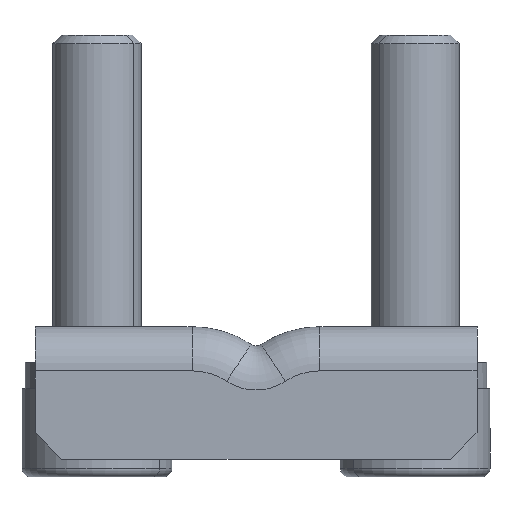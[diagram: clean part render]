
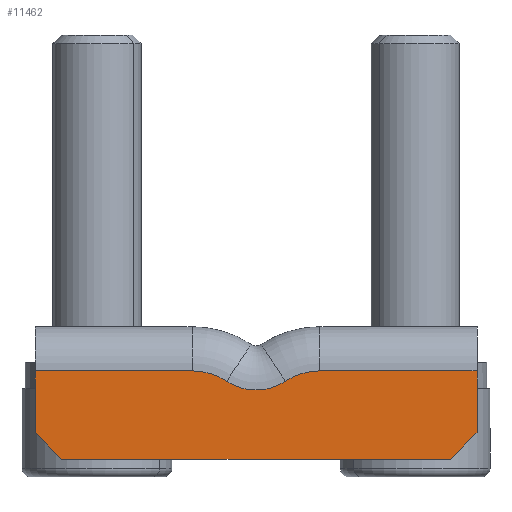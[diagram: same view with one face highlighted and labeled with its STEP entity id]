
A CAD part, front view. The second image highlights one B-rep face of the part: STEP entity #11462.
In plain terms, the highlighted planar face has unit normal (0, -1, 0).
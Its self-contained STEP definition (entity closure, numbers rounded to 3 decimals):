
#196 = CARTESIAN_POINT ( 'NONE',  ( -3.5, -7.25, -2.5 ) ) ;
#256 = AXIS2_PLACEMENT_3D ( 'NONE', #12272, #5887, #4882 ) ;
#277 = VERTEX_POINT ( 'NONE', #4574 ) ;
#456 = EDGE_CURVE ( 'NONE', #515, #13500, #3673, .T. ) ;
#515 = VERTEX_POINT ( 'NONE', #3693 ) ;
#591 = CARTESIAN_POINT ( 'NONE',  ( 5.4, -7.25, -2.5 ) ) ;
#1161 = CARTESIAN_POINT ( 'NONE',  ( 7.338, -7.25, -3.086 ) ) ;
#1192 = DIRECTION ( 'NONE',  ( 0., 0., 1. ) ) ;
#1230 = CARTESIAN_POINT ( 'NONE',  ( 5.4, -7.25, -2.5 ) ) ;
#1631 = CARTESIAN_POINT ( 'NONE',  ( -3.5, -7.25, -7.5 ) ) ;
#1722 = LINE ( 'NONE', #7492, #1886 ) ;
#1803 = EDGE_CURVE ( 'NONE', #7904, #277, #7412, .T. ) ;
#1886 = VECTOR ( 'NONE', #1192, 1000. ) ;
#1954 = VECTOR ( 'NONE', #12166, 1000. ) ;
#2512 = CARTESIAN_POINT ( 'NONE',  ( 15., -7.25, -12.5 ) ) ;
#2625 = ORIENTED_EDGE ( 'NONE', *, *, #4725, .F. ) ;
#2693 = CARTESIAN_POINT ( 'NONE',  ( -3.5, -7.25, -6. ) ) ;
#2869 = AXIS2_PLACEMENT_3D ( 'NONE', #13606, #7295, #3020 ) ;
#2949 = DIRECTION ( 'NONE',  ( 0., 1., 0. ) ) ;
#2978 = LINE ( 'NONE', #591, #5954 ) ;
#3020 = DIRECTION ( 'NONE',  ( -1., 0., 0. ) ) ;
#3093 = VERTEX_POINT ( 'NONE', #1161 ) ;
#3203 = LINE ( 'NONE', #13008, #3367 ) ;
#3252 = VERTEX_POINT ( 'NONE', #11876 ) ;
#3342 = AXIS2_PLACEMENT_3D ( 'NONE', #7150, #6053, #7199 ) ;
#3367 = VECTOR ( 'NONE', #11618, 1000. ) ;
#3398 = CIRCLE ( 'NONE', #2869, 3.5 ) ;
#3673 = LINE ( 'NONE', #1631, #13530 ) ;
#3693 = CARTESIAN_POINT ( 'NONE',  ( 20., -7.25, -7.5 ) ) ;
#3727 = DIRECTION ( 'NONE',  ( -1., 0., 0. ) ) ;
#4058 = CARTESIAN_POINT ( 'NONE',  ( 10.662, -7.25, -3.086 ) ) ;
#4574 = CARTESIAN_POINT ( 'NONE',  ( 21.5, -7.25, -2.5 ) ) ;
#4716 = CIRCLE ( 'NONE', #256, 3. ) ;
#4725 = EDGE_CURVE ( 'NONE', #3252, #277, #12798, .T. ) ;
#4791 = CARTESIAN_POINT ( 'NONE',  ( -2., -7.25, -7.5 ) ) ;
#4834 = DIRECTION ( 'NONE',  ( 0., 0., 1. ) ) ;
#4882 = DIRECTION ( 'NONE',  ( 1., 0., 0. ) ) ;
#5503 = VECTOR ( 'NONE', #11973, 1000. ) ;
#5611 = ORIENTED_EDGE ( 'NONE', *, *, #10151, .F. ) ;
#5887 = DIRECTION ( 'NONE',  ( 0., -1., 0. ) ) ;
#5954 = VECTOR ( 'NONE', #3727, 1000. ) ;
#6053 = DIRECTION ( 'NONE',  ( 0., -1., 0. ) ) ;
#6652 = FACE_OUTER_BOUND ( 'NONE', #12488, .T. ) ;
#7144 = EDGE_CURVE ( 'NONE', #10906, #12297, #2978, .T. ) ;
#7150 = CARTESIAN_POINT ( 'NONE',  ( 4.5, -7.25, -2. ) ) ;
#7199 = DIRECTION ( 'NONE',  ( 1., 0., 0. ) ) ;
#7276 = DIRECTION ( 'NONE',  ( -1., 0., 0. ) ) ;
#7295 = DIRECTION ( 'NONE',  ( 0., 1., 0. ) ) ;
#7412 = LINE ( 'NONE', #9010, #8408 ) ;
#7492 = CARTESIAN_POINT ( 'NONE',  ( -3.5, -7.25, -2. ) ) ;
#7904 = VERTEX_POINT ( 'NONE', #12780 ) ;
#8299 = LINE ( 'NONE', #2512, #5503 ) ;
#8369 = EDGE_CURVE ( 'NONE', #10906, #3093, #3398, .T. ) ;
#8408 = VECTOR ( 'NONE', #4834, 1000. ) ;
#8525 = ORIENTED_EDGE ( 'NONE', *, *, #8369, .F. ) ;
#9004 = CARTESIAN_POINT ( 'NONE',  ( 12.6, -7.25, -2.5 ) ) ;
#9010 = CARTESIAN_POINT ( 'NONE',  ( 21.5, -7.25, -2. ) ) ;
#9213 = VERTEX_POINT ( 'NONE', #2693 ) ;
#9449 = CARTESIAN_POINT ( 'NONE',  ( 12.6, -7.25, -6. ) ) ;
#9461 = CIRCLE ( 'NONE', #10573, 3.5 ) ;
#9665 = ORIENTED_EDGE ( 'NONE', *, *, #1803, .T. ) ;
#9763 = ORIENTED_EDGE ( 'NONE', *, *, #13067, .F. ) ;
#9770 = ORIENTED_EDGE ( 'NONE', *, *, #10867, .F. ) ;
#10061 = DIRECTION ( 'NONE',  ( -1., 0., 0. ) ) ;
#10151 = EDGE_CURVE ( 'NONE', #10236, #3252, #9461, .T. ) ;
#10236 = VERTEX_POINT ( 'NONE', #4058 ) ;
#10521 = EDGE_CURVE ( 'NONE', #515, #7904, #8299, .T. ) ;
#10573 = AXIS2_PLACEMENT_3D ( 'NONE', #9449, #2949, #7276 ) ;
#10867 = EDGE_CURVE ( 'NONE', #9213, #12297, #1722, .T. ) ;
#10906 = VERTEX_POINT ( 'NONE', #1230 ) ;
#11462 = ADVANCED_FACE ( 'NONE', ( #6652 ), #13412, .T. ) ;
#11618 = DIRECTION ( 'NONE',  ( 0.707, 0., -0.707 ) ) ;
#11854 = ORIENTED_EDGE ( 'NONE', *, *, #7144, .T. ) ;
#11876 = CARTESIAN_POINT ( 'NONE',  ( 12.6, -7.25, -2.5 ) ) ;
#11973 = DIRECTION ( 'NONE',  ( 0.707, 0., 0.707 ) ) ;
#12166 = DIRECTION ( 'NONE',  ( 1., 0., 0. ) ) ;
#12186 = ORIENTED_EDGE ( 'NONE', *, *, #10521, .T. ) ;
#12272 = CARTESIAN_POINT ( 'NONE',  ( 9., -7.25, -0.588 ) ) ;
#12297 = VERTEX_POINT ( 'NONE', #196 ) ;
#12488 = EDGE_LOOP ( 'NONE', ( #12802, #12186, #9665, #2625, #5611, #9763, #8525, #11854, #9770, #13612 ) ) ;
#12780 = CARTESIAN_POINT ( 'NONE',  ( 21.5, -7.25, -6. ) ) ;
#12798 = LINE ( 'NONE', #9004, #1954 ) ;
#12802 = ORIENTED_EDGE ( 'NONE', *, *, #456, .F. ) ;
#13008 = CARTESIAN_POINT ( 'NONE',  ( -1.5, -7.25, -8. ) ) ;
#13067 = EDGE_CURVE ( 'NONE', #3093, #10236, #4716, .T. ) ;
#13250 = EDGE_CURVE ( 'NONE', #9213, #13500, #3203, .T. ) ;
#13412 = PLANE ( 'NONE',  #3342 ) ;
#13500 = VERTEX_POINT ( 'NONE', #4791 ) ;
#13530 = VECTOR ( 'NONE', #10061, 1000. ) ;
#13606 = CARTESIAN_POINT ( 'NONE',  ( 5.4, -7.25, -6. ) ) ;
#13612 = ORIENTED_EDGE ( 'NONE', *, *, #13250, .T. ) ;
